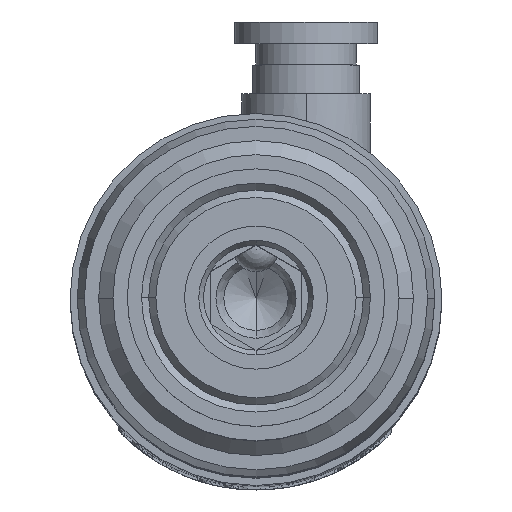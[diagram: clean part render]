
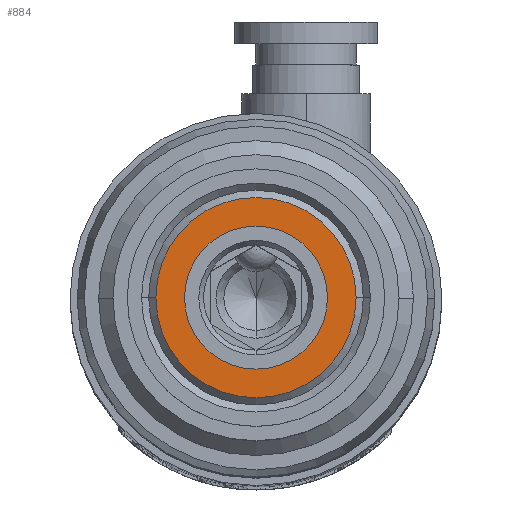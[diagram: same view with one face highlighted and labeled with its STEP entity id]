
A CAD part, top view. The second image highlights one B-rep face of the part: STEP entity #884.
In plain terms, the highlighted planar face has unit normal (0, 0, 1).
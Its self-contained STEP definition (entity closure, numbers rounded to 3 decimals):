
#749 = EDGE_CURVE ( 'NONE', #750, #751, #2971, .T. ) ;
#750 = VERTEX_POINT ( 'NONE', #2962 ) ;
#751 = VERTEX_POINT ( 'NONE', #2961 ) ;
#828 = VERTEX_POINT ( 'NONE', #3144 ) ;
#830 = EDGE_CURVE ( 'NONE', #828, #831, #3143, .T. ) ;
#831 = VERTEX_POINT ( 'NONE', #3138 ) ;
#884 = ADVANCED_FACE ( 'NONE', ( #3179, #3178 ), #3242, .F. ) ;
#885 = EDGE_LOOP ( 'NONE', ( #886, #888 ) ) ;
#886 = ORIENTED_EDGE ( 'NONE', *, *, #887, .F. ) ;
#887 = EDGE_CURVE ( 'NONE', #831, #828, #3237, .T. ) ;
#888 = ORIENTED_EDGE ( 'NONE', *, *, #830, .F. ) ;
#889 = EDGE_LOOP ( 'NONE', ( #890, #892 ) ) ;
#890 = ORIENTED_EDGE ( 'NONE', *, *, #891, .T. ) ;
#891 = EDGE_CURVE ( 'NONE', #751, #750, #3232, .T. ) ;
#892 = ORIENTED_EDGE ( 'NONE', *, *, #749, .T. ) ;
#2961 = CARTESIAN_POINT ( 'NONE',  ( -7., 0., 0. ) ) ;
#2962 = CARTESIAN_POINT ( 'NONE',  ( 7., 0., 0. ) ) ;
#2963 = DIRECTION ( 'NONE',  ( 1., 0., 0. ) ) ;
#2964 = DIRECTION ( 'NONE',  ( 0., 0., 1. ) ) ;
#2965 = CARTESIAN_POINT ( 'NONE',  ( 0., 0., 0. ) ) ;
#2966 = AXIS2_PLACEMENT_3D ( 'NONE', #2965, #2964, #2963 ) ;
#2971 = CIRCLE ( 'NONE', #2966, 7. ) ;
#3138 = CARTESIAN_POINT ( 'NONE',  ( 5., 0., 0. ) ) ;
#3139 = DIRECTION ( 'NONE',  ( 1., 0., 0. ) ) ;
#3140 = DIRECTION ( 'NONE',  ( 0., 0., 1. ) ) ;
#3141 = CARTESIAN_POINT ( 'NONE',  ( 0., 0., 0. ) ) ;
#3142 = AXIS2_PLACEMENT_3D ( 'NONE', #3141, #3140, #3139 ) ;
#3143 = CIRCLE ( 'NONE', #3142, 5. ) ;
#3144 = CARTESIAN_POINT ( 'NONE',  ( -5., 0., 0. ) ) ;
#3178 = FACE_OUTER_BOUND ( 'NONE', #889, .T. ) ;
#3179 = FACE_BOUND ( 'NONE', #885, .T. ) ;
#3228 = DIRECTION ( 'NONE',  ( 1., 0., 0. ) ) ;
#3229 = DIRECTION ( 'NONE',  ( 0., 0., 1. ) ) ;
#3230 = CARTESIAN_POINT ( 'NONE',  ( 0., 0., 0. ) ) ;
#3231 = AXIS2_PLACEMENT_3D ( 'NONE', #3230, #3229, #3228 ) ;
#3232 = CIRCLE ( 'NONE', #3231, 7. ) ;
#3233 = DIRECTION ( 'NONE',  ( 1., 0., 0. ) ) ;
#3234 = DIRECTION ( 'NONE',  ( 0., 0., 1. ) ) ;
#3235 = CARTESIAN_POINT ( 'NONE',  ( 0., 0., 0. ) ) ;
#3236 = AXIS2_PLACEMENT_3D ( 'NONE', #3235, #3234, #3233 ) ;
#3237 = CIRCLE ( 'NONE', #3236, 5. ) ;
#3238 = DIRECTION ( 'NONE',  ( -1., 0., 0. ) ) ;
#3239 = DIRECTION ( 'NONE',  ( 0., 0., -1. ) ) ;
#3240 = CARTESIAN_POINT ( 'NONE',  ( 0., 5., 0. ) ) ;
#3241 = AXIS2_PLACEMENT_3D ( 'NONE', #3240, #3239, #3238 ) ;
#3242 = PLANE ( 'NONE',  #3241 ) ;
